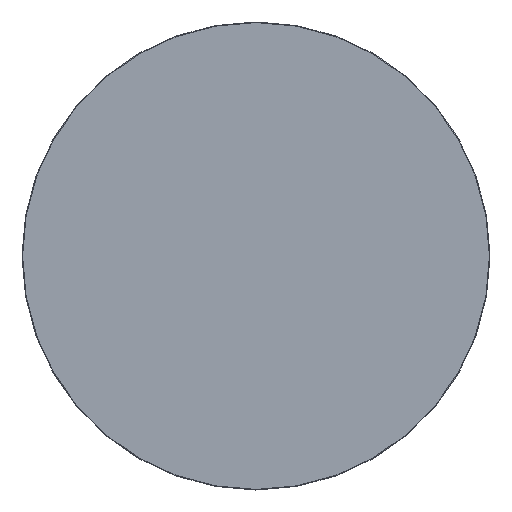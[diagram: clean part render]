
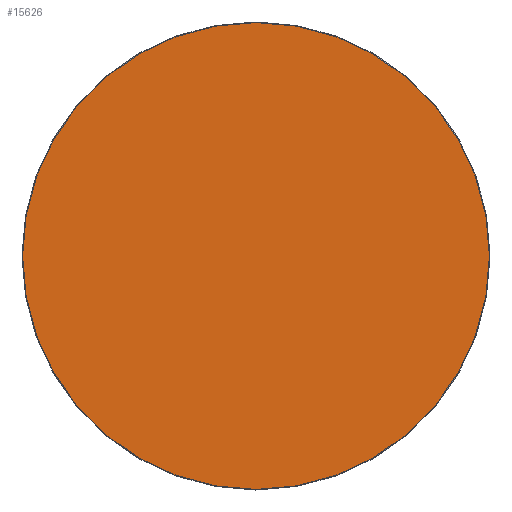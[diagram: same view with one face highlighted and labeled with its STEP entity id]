
A CAD part, top view. The second image highlights one B-rep face of the part: STEP entity #15626.
In plain terms, the highlighted planar face has unit normal (0, 0, 1).
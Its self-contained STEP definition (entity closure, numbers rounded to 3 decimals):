
#15551=CARTESIAN_POINT('',(0.,0.,20.));
#15552=DIRECTION('',(1.,0.,0.));
#15553=DIRECTION('',(0.,0.,1.));
#15554=AXIS2_PLACEMENT_3D('',#15551,#15553,#15552);
#15555=PLANE('',#15554);
#15556=CARTESIAN_POINT('',(-0.5,-598.5,20.));
#15557=VERTEX_POINT('',#15556);
#15558=CARTESIAN_POINT('',(0.5,-598.5,20.));
#15559=VERTEX_POINT('',#15558);
#15560=CARTESIAN_POINT('',(-0.5,-598.5,20.));
#15561=DIRECTION('',(1.,0.,0.));
#15562=VECTOR('',#15561,1.);
#15563=LINE('',#15560,#15562);
#15564=EDGE_CURVE('',#15557,#15559,#15563,.T.);
#15565=ORIENTED_EDGE('E105',*,*,#15564,.T.);
#15566=CARTESIAN_POINT('',(598.5,-0.5,20.));
#15567=VERTEX_POINT('',#15566);
#15568=CARTESIAN_POINT('',(0.5,-0.5,20.));
#15569=DIRECTION('',(0.,-1.,0.));
#15570=DIRECTION('',(0.,0.,1.));
#15571=AXIS2_PLACEMENT_3D('',#15568,#15570,#15569);
#15572=CIRCLE('',#15571,598.);
#15573=EDGE_CURVE('',#15559,#15567,#15572,.T.);
#15574=ORIENTED_EDGE('E107',*,*,#15573,.T.);
#15575=CARTESIAN_POINT('',(598.5,0.5,20.));
#15576=VERTEX_POINT('',#15575);
#15577=CARTESIAN_POINT('',(598.5,-0.5,20.));
#15578=DIRECTION('',(0.,1.,0.));
#15579=VECTOR('',#15578,1.);
#15580=LINE('',#15577,#15579);
#15581=EDGE_CURVE('',#15567,#15576,#15580,.T.);
#15582=ORIENTED_EDGE('E109',*,*,#15581,.T.);
#15583=CARTESIAN_POINT('',(0.5,598.5,20.));
#15584=VERTEX_POINT('',#15583);
#15585=CARTESIAN_POINT('',(0.5,0.5,20.));
#15586=DIRECTION('',(1.,0.,0.));
#15587=DIRECTION('',(0.,0.,1.));
#15588=AXIS2_PLACEMENT_3D('',#15585,#15587,#15586);
#15589=CIRCLE('',#15588,598.);
#15590=EDGE_CURVE('',#15576,#15584,#15589,.T.);
#15591=ORIENTED_EDGE('E111',*,*,#15590,.T.);
#15592=CARTESIAN_POINT('',(-0.5,598.5,20.));
#15593=VERTEX_POINT('',#15592);
#15594=CARTESIAN_POINT('',(0.5,598.5,20.));
#15595=DIRECTION('',(-1.,0.,0.));
#15596=VECTOR('',#15595,1.);
#15597=LINE('',#15594,#15596);
#15598=EDGE_CURVE('',#15584,#15593,#15597,.T.);
#15599=ORIENTED_EDGE('E113',*,*,#15598,.T.);
#15600=CARTESIAN_POINT('',(-598.5,0.5,20.));
#15601=VERTEX_POINT('',#15600);
#15602=CARTESIAN_POINT('',(-0.5,0.5,20.));
#15603=DIRECTION('',(0.,1.,0.));
#15604=DIRECTION('',(0.,0.,1.));
#15605=AXIS2_PLACEMENT_3D('',#15602,#15604,#15603);
#15606=CIRCLE('',#15605,598.);
#15607=EDGE_CURVE('',#15593,#15601,#15606,.T.);
#15608=ORIENTED_EDGE('E115',*,*,#15607,.T.);
#15609=CARTESIAN_POINT('',(-598.5,-0.5,20.));
#15610=VERTEX_POINT('',#15609);
#15611=CARTESIAN_POINT('',(-598.5,0.5,20.));
#15612=DIRECTION('',(0.,-1.,0.));
#15613=VECTOR('',#15612,1.);
#15614=LINE('',#15611,#15613);
#15615=EDGE_CURVE('',#15601,#15610,#15614,.T.);
#15616=ORIENTED_EDGE('E117',*,*,#15615,.T.);
#15617=CARTESIAN_POINT('',(-0.5,-0.5,20.));
#15618=DIRECTION('',(-1.,0.,0.));
#15619=DIRECTION('',(0.,0.,1.));
#15620=AXIS2_PLACEMENT_3D('',#15617,#15619,#15618);
#15621=CIRCLE('',#15620,598.);
#15622=EDGE_CURVE('',#15610,#15557,#15621,.T.);
#15623=ORIENTED_EDGE('E119',*,*,#15622,.T.);
#15624=EDGE_LOOP('',(#15565,#15574,#15582,#15591,#15599,#15608,#15616,#15623));
#15625=FACE_OUTER_BOUND('',#15624,.T.);
#15626=ADVANCED_FACE('F2',(#15625),#15555,.T.);
